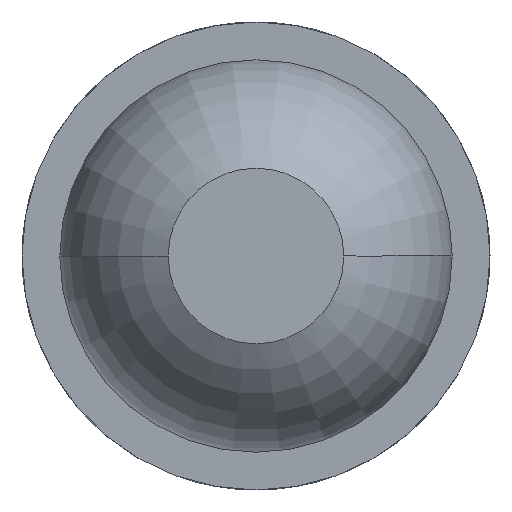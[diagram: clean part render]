
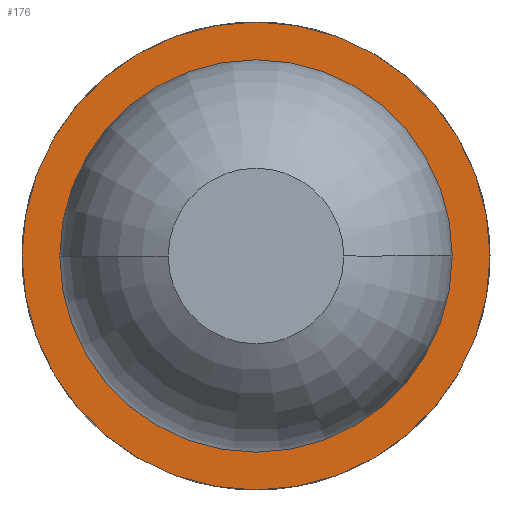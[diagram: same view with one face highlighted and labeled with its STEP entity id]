
A CAD part, left-side view. The second image highlights one B-rep face of the part: STEP entity #176.
In plain terms, the highlighted planar face has unit normal (-1, 0, 0).
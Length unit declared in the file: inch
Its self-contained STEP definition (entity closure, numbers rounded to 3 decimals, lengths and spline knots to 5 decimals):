
#23 = VERTEX_POINT ( 'NONE', #841 ) ;
#44 = CARTESIAN_POINT ( 'NONE',  ( 1.23, 0., 0. ) ) ;
#98 = AXIS2_PLACEMENT_3D ( 'NONE', #44, #1255, #1262 ) ;
#176 = ADVANCED_FACE ( 'NONE', ( #772, #901 ), #655, .F. ) ;
#229 = CIRCLE ( 'NONE', #98, 0.024 ) ;
#282 = ORIENTED_EDGE ( 'NONE', *, *, #618, .F. ) ;
#319 = VERTEX_POINT ( 'NONE', #941 ) ;
#322 = ORIENTED_EDGE ( 'NONE', *, *, #602, .T. ) ;
#338 = ORIENTED_EDGE ( 'NONE', *, *, #1264, .F. ) ;
#357 = EDGE_CURVE ( 'NONE', #23, #319, #852, .T. ) ;
#392 = AXIS2_PLACEMENT_3D ( 'NONE', #872, #1478, #889 ) ;
#480 = CIRCLE ( 'NONE', #505, 0.024 ) ;
#505 = AXIS2_PLACEMENT_3D ( 'NONE', #785, #1045, #904 ) ;
#518 = DIRECTION ( 'NONE',  ( 1., 0., 0. ) ) ;
#546 = DIRECTION ( 'NONE',  ( 1., 0., 0. ) ) ;
#572 = ORIENTED_EDGE ( 'NONE', *, *, #357, .T. ) ;
#602 = EDGE_CURVE ( 'NONE', #319, #23, #1144, .T. ) ;
#618 = EDGE_CURVE ( 'NONE', #1185, #978, #480, .T. ) ;
#655 = PLANE ( 'NONE',  #392 ) ;
#660 = CARTESIAN_POINT ( 'NONE',  ( 1.23, 0., 0. ) ) ;
#661 = AXIS2_PLACEMENT_3D ( 'NONE', #660, #546, #1490 ) ;
#759 = EDGE_LOOP ( 'NONE', ( #572, #322 ) ) ;
#772 = FACE_BOUND ( 'NONE', #759, .T. ) ;
#785 = CARTESIAN_POINT ( 'NONE',  ( 1.23, 0., 0. ) ) ;
#841 = CARTESIAN_POINT ( 'NONE',  ( 1.23, 0., -0.0153 ) ) ;
#852 = CIRCLE ( 'NONE', #1099, 0.0153 ) ;
#872 = CARTESIAN_POINT ( 'NONE',  ( 1.23, 0., 0. ) ) ;
#889 = DIRECTION ( 'NONE',  ( 0., 0., -1. ) ) ;
#899 = CARTESIAN_POINT ( 'NONE',  ( 1.23, 0., -0.024 ) ) ;
#901 = FACE_OUTER_BOUND ( 'NONE', #1116, .T. ) ;
#904 = DIRECTION ( 'NONE',  ( 0., 0., -1. ) ) ;
#941 = CARTESIAN_POINT ( 'NONE',  ( 1.23, 0., 0.0153 ) ) ;
#978 = VERTEX_POINT ( 'NONE', #899 ) ;
#1007 = CARTESIAN_POINT ( 'NONE',  ( 1.23, 0., 0.024 ) ) ;
#1045 = DIRECTION ( 'NONE',  ( 1., 0., 0. ) ) ;
#1099 = AXIS2_PLACEMENT_3D ( 'NONE', #1448, #518, #1249 ) ;
#1116 = EDGE_LOOP ( 'NONE', ( #338, #282 ) ) ;
#1144 = CIRCLE ( 'NONE', #661, 0.0153 ) ;
#1185 = VERTEX_POINT ( 'NONE', #1007 ) ;
#1249 = DIRECTION ( 'NONE',  ( 0., 0., -1. ) ) ;
#1255 = DIRECTION ( 'NONE',  ( 1., 0., 0. ) ) ;
#1262 = DIRECTION ( 'NONE',  ( 0., 0., -1. ) ) ;
#1264 = EDGE_CURVE ( 'NONE', #978, #1185, #229, .T. ) ;
#1448 = CARTESIAN_POINT ( 'NONE',  ( 1.23, 0., 0. ) ) ;
#1478 = DIRECTION ( 'NONE',  ( 1., 0., 0. ) ) ;
#1490 = DIRECTION ( 'NONE',  ( 0., 0., -1. ) ) ;
